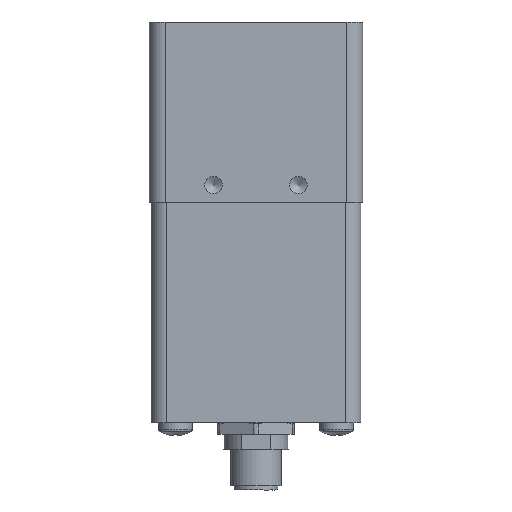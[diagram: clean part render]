
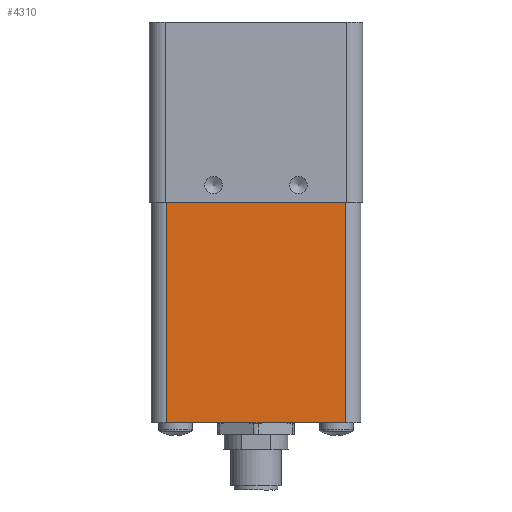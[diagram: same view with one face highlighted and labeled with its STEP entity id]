
A CAD part, front view. The second image highlights one B-rep face of the part: STEP entity #4310.
In plain terms, the highlighted planar face has unit normal (0, -1, 0).
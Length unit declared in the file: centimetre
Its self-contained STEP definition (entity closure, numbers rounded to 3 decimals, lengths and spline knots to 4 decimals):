
#306=LINE('',#6711,#641);
#313=LINE('',#6731,#648);
#314=LINE('',#6735,#649);
#315=LINE('',#6736,#650);
#641=VECTOR('',#5307,4.2);
#648=VECTOR('',#5326,5.2);
#649=VECTOR('',#5331,5.2);
#650=VECTOR('',#5332,4.2);
#918=PLANE('',#4604);
#1233=FACE_OUTER_BOUND('',#1517,.T.);
#1517=EDGE_LOOP('',(#3381,#3382,#3383,#3384));
#1998=VERTEX_POINT('',#6708);
#1999=VERTEX_POINT('',#6710);
#2006=VERTEX_POINT('',#6730);
#2007=VERTEX_POINT('',#6734);
#2489=EDGE_CURVE('',#1998,#1999,#306,.T.);
#2499=EDGE_CURVE('',#2006,#1998,#313,.T.);
#2501=EDGE_CURVE('',#1999,#2007,#314,.T.);
#2502=EDGE_CURVE('',#2006,#2007,#315,.T.);
#3381=ORIENTED_EDGE('',*,*,#2501,.F.);
#3382=ORIENTED_EDGE('',*,*,#2489,.F.);
#3383=ORIENTED_EDGE('',*,*,#2499,.F.);
#3384=ORIENTED_EDGE('',*,*,#2502,.T.);
#4310=ADVANCED_FACE('',(#1233),#918,.T.);
#4604=AXIS2_PLACEMENT_3D('',#6733,#5329,#5330);
#5307=DIRECTION('',(1.,0.,0.));
#5326=DIRECTION('',(0.,0.,1.));
#5329=DIRECTION('center_axis',(0.,-1.,0.));
#5330=DIRECTION('ref_axis',(0.,0.,-1.));
#5331=DIRECTION('',(0.,0.,-1.));
#5332=DIRECTION('',(1.,0.,0.));
#6708=CARTESIAN_POINT('',(0.4175,0.0425,-2.05));
#6710=CARTESIAN_POINT('',(4.6175,0.0425,-2.05));
#6711=CARTESIAN_POINT('',(0.4175,0.0425,-2.05));
#6730=CARTESIAN_POINT('',(0.4175,0.0425,-7.25));
#6731=CARTESIAN_POINT('',(0.4175,0.0425,-7.25));
#6733=CARTESIAN_POINT('Origin',(0.0425,0.0425,-6.94));
#6734=CARTESIAN_POINT('',(4.6175,0.0425,-7.25));
#6735=CARTESIAN_POINT('',(4.6175,0.0425,-2.05));
#6736=CARTESIAN_POINT('',(0.4175,0.0425,-7.25));
